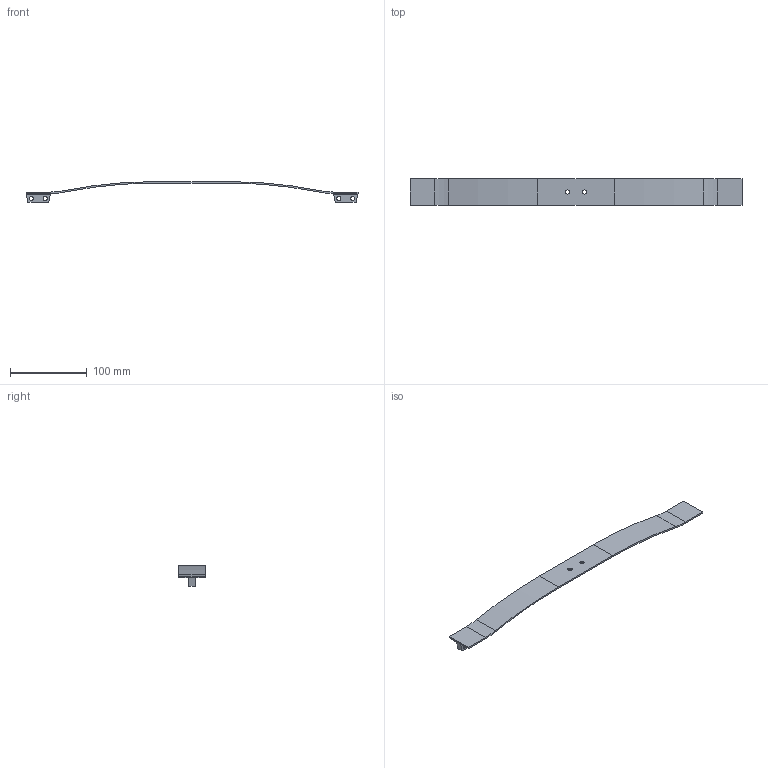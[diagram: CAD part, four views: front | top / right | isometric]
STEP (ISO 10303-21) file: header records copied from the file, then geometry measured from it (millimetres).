
FILE_DESCRIPTION(/* description */ (''),/* implementation_level */ '2;1');
FILE_NAME(/* name */ 'ressort_patin2.stp',/* time_stamp */ '2026-09-21T15:09:01+02:00',/* author */ (''),/* organization */ (''),/* preprocessor_version */ 'ST-DEVELOPER v20',/* originating_system */ 'SIEMENS PLM Software NX2406.4001',/* authorisation */ '');
FILE_SCHEMA (('AUTOMOTIVE_DESIGN { 1 0 10303 214 3 1 1 1 }'));
Length unit declared in the file: millimetre
Products named in the file (1): ressort_patin2
Bounding box: 432 x 35 x 27 mm (x, y, z)
Volume: 34966.8 mm3; surface area: 34179.1 mm2
Topology: 1 solids, 1 shells, 40 faces, 107 edges, 69 vertices
Faces by surface type: plane 22, cylinder 18
Full cylindrical faces by diameter (mm): 5.5 x6
Entity records: 1260 total; most frequent: DIRECTION 218, CARTESIAN_POINT 209, ORIENTED_EDGE 200, EDGE_CURVE 100, AXIS2_PLACEMENT_3D 77, VERTEX_POINT 68, LINE 64, VECTOR 64
